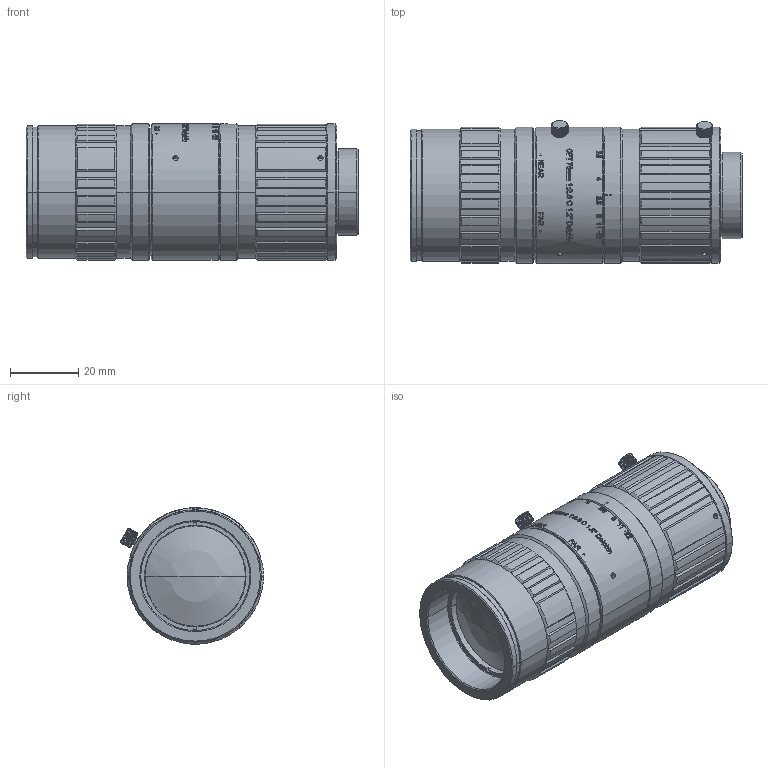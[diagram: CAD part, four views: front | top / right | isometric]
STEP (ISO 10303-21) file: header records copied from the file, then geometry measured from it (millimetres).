
FILE_DESCRIPTION((''),'2;1');
FILE_NAME('PRT0001','2024-08-19T09:10:32',('admin'),(''),'CREO PARAMETRIC BY PTC INC, 2020354','CREO PARAMETRIC BY PTC INC, 2020354','');
FILE_SCHEMA(('AUTOMOTIVE_DESIGN { 1 0 10303 214 1 1 1 1 }'));
Length unit declared in the file: millimetre
Products named in the file (1): PRT0001
Bounding box: 97.45 x 41.93 x 40.05 mm (x, y, z)
Volume: 106657.3 mm3; surface area: 17565.8 mm2
Topology: 1 solids, 5 shells, 1509 faces, 4146 edges, 2730 vertices
Faces by surface type: bspline 507, plane 486, cylinder 423, cone 85, torus 4, sphere 4
Entity records: 60184 total; most frequent: CARTESIAN_POINT 25976, ORIENTED_EDGE 8284, DIRECTION 5182, EDGE_CURVE 4142, VERTEX_POINT 2730, AXIS2_PLACEMENT_3D 1758, B_SPLINE_CURVE_WITH_KNOTS 1720, VECTOR 1666
